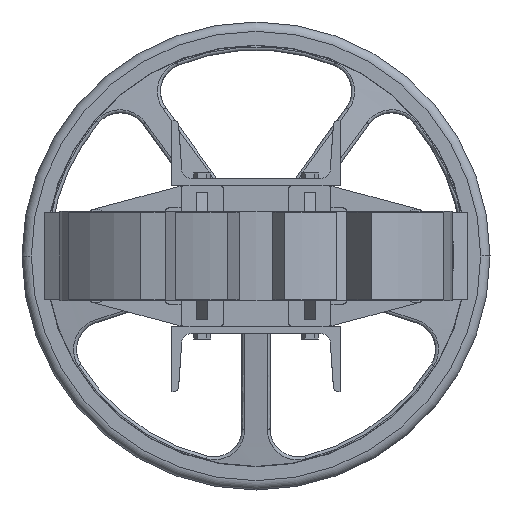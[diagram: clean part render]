
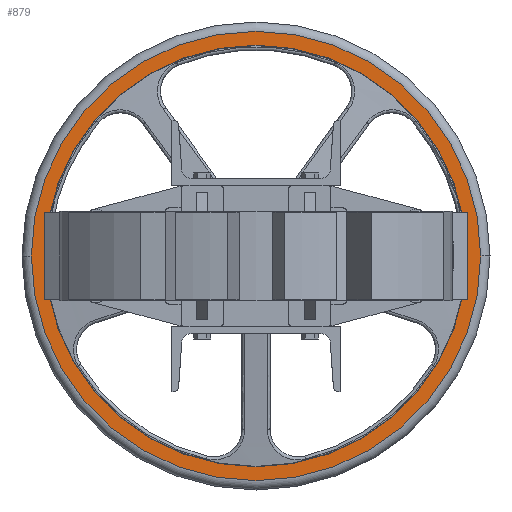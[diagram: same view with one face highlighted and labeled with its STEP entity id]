
A CAD part, front view. The second image highlights one B-rep face of the part: STEP entity #879.
In plain terms, the highlighted planar face has unit normal (0, -1, 0).
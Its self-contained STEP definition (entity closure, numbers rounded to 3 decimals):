
#768 = EDGE_CURVE ( 'NONE', #31782, #41331, #1704, .T. ) ;
#830 = ORIENTED_EDGE ( 'NONE', *, *, #768, .F. ) ;
#838 = EDGE_LOOP ( 'NONE', ( #839, #830 ) ) ;
#839 = ORIENTED_EDGE ( 'NONE', *, *, #31789, .F. ) ;
#852 = ORIENTED_EDGE ( 'NONE', *, *, #854, .T. ) ;
#853 = ORIENTED_EDGE ( 'NONE', *, *, #31694, .T. ) ;
#854 = EDGE_CURVE ( 'NONE', #31691, #31682, #1886, .T. ) ;
#879 = ADVANCED_FACE ( 'NONE', ( #1982, #1981 ), #1980, .F. ) ;
#886 = EDGE_LOOP ( 'NONE', ( #852, #853 ) ) ;
#1700 = DIRECTION ( 'NONE',  ( -1., 0., 0. ) ) ;
#1701 = DIRECTION ( 'NONE',  ( 0., 1., 0. ) ) ;
#1702 = CARTESIAN_POINT ( 'NONE',  ( 0., 902.5, 0. ) ) ;
#1703 = AXIS2_PLACEMENT_3D ( 'NONE', #1702, #1701, #1700 ) ;
#1704 = CIRCLE ( 'NONE', #1703, 240. ) ;
#1883 = DIRECTION ( 'NONE',  ( 0., 1., 0. ) ) ;
#1884 = CARTESIAN_POINT ( 'NONE',  ( 0., 902.5, 0. ) ) ;
#1885 = AXIS2_PLACEMENT_3D ( 'NONE', #1884, #1883, #1945 ) ;
#1886 = CIRCLE ( 'NONE', #1885, 225.206 ) ;
#1945 = DIRECTION ( 'NONE',  ( -1., 0., 0. ) ) ;
#1976 = DIRECTION ( 'NONE',  ( -1., 0., 0. ) ) ;
#1977 = DIRECTION ( 'NONE',  ( 0., 1., 0. ) ) ;
#1978 = CARTESIAN_POINT ( 'NONE',  ( 240., 902.5, 0. ) ) ;
#1979 = AXIS2_PLACEMENT_3D ( 'NONE', #1978, #1977, #1976 ) ;
#1980 = PLANE ( 'NONE',  #1979 ) ;
#1981 = FACE_OUTER_BOUND ( 'NONE', #838, .T. ) ;
#1982 = FACE_BOUND ( 'NONE', #886, .T. ) ;
#10954 = CIRCLE ( 'NONE', #11021, 225.206 ) ;
#10956 = CARTESIAN_POINT ( 'NONE',  ( -225.206, 902.5, 0. ) ) ;
#10976 = CARTESIAN_POINT ( 'NONE',  ( 225.206, 902.5, 0. ) ) ;
#11018 = DIRECTION ( 'NONE',  ( -1., 0., 0. ) ) ;
#11019 = DIRECTION ( 'NONE',  ( 0., 1., 0. ) ) ;
#11020 = CARTESIAN_POINT ( 'NONE',  ( 0., 902.5, 0. ) ) ;
#11021 = AXIS2_PLACEMENT_3D ( 'NONE', #11020, #11019, #11018 ) ;
#11251 = DIRECTION ( 'NONE',  ( -1., 0., 0. ) ) ;
#11252 = DIRECTION ( 'NONE',  ( 0., 1., 0. ) ) ;
#11253 = CARTESIAN_POINT ( 'NONE',  ( 0., 902.5, 0. ) ) ;
#11254 = AXIS2_PLACEMENT_3D ( 'NONE', #11253, #11252, #11251 ) ;
#11255 = CIRCLE ( 'NONE', #11254, 240. ) ;
#11264 = CARTESIAN_POINT ( 'NONE',  ( 240., 902.5, 0. ) ) ;
#30105 = CARTESIAN_POINT ( 'NONE',  ( -240., 902.5, 0. ) ) ;
#31682 = VERTEX_POINT ( 'NONE', #10976 ) ;
#31691 = VERTEX_POINT ( 'NONE', #10956 ) ;
#31694 = EDGE_CURVE ( 'NONE', #31682, #31691, #10954, .T. ) ;
#31782 = VERTEX_POINT ( 'NONE', #11264 ) ;
#31789 = EDGE_CURVE ( 'NONE', #41331, #31782, #11255, .T. ) ;
#41331 = VERTEX_POINT ( 'NONE', #30105 ) ;
